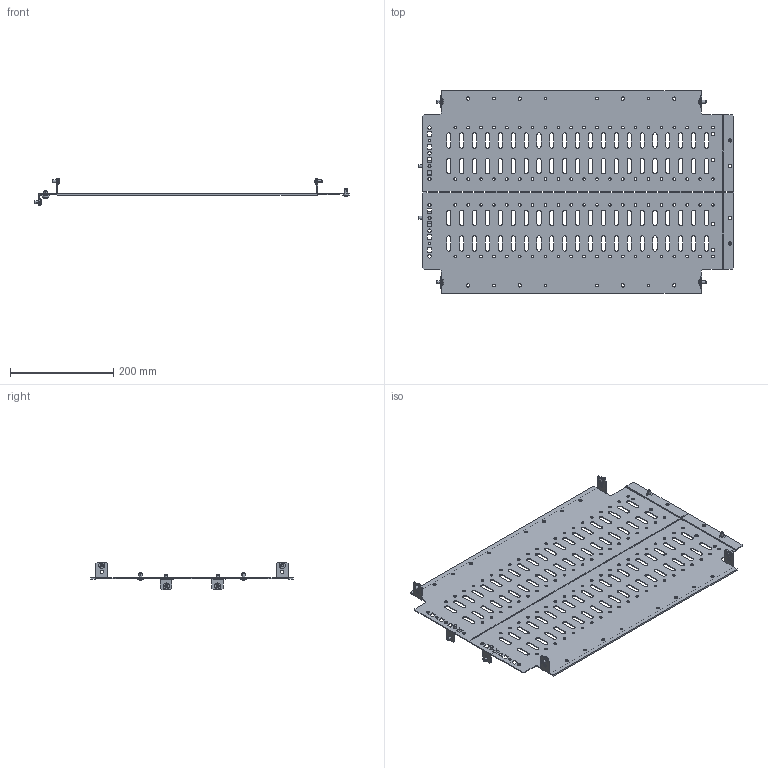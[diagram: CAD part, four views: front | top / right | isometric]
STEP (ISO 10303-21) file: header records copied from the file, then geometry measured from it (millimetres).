
FILE_DESCRIPTION (( 'STEP AP214' ), '1' );
FILE_NAME ('FO-00-SWH-040-060 Ïåðåãîðîäêà ñåêöèîíèðîâàíèÿ ãîðèçîíòàëüíàÿ 400õ600 ìì â øêàô ãëóáèíîé 1000 ìì.STEP', '2025-08-13T10:12:04', ( '' ), ( '' ), 'SwSTEP 2.0', 'SolidWorks 2023', '' );
FILE_SCHEMA (( 'AUTOMOTIVE_DESIGN' ));
Length unit declared in the file: millimetre
Products named in the file (6): Перегородка секционирования горизонтальная 400х600 мм в шкаф глубиной 1000 мм L; Перегородка секционирования горизонтальная 400х600 мм в шкаф глубиной 1000 мм R; FO-00-SWH-040-060 Перегородка секционирования горизонтальная 400х600 мм в шкаф глубиной 1000 мм; Уголок; Перегородка секционирования горизонтальная 400х600 мм в шкаф глубиной 1000 мм (R); Перегородка секционирования горизонтальная 400х600 мм в шкаф глубиной 1000 мм (L)
Assembly tree (6 placements, depth 3):
  FO-00-SWH-040-060 Перегородка секционирования горизонтальная 400х600 мм в шкаф глубиной 1000 мм
    Перегородка секционирования горизонтальная 400х600 мм в шкаф глубиной 1000 мм (L)
      Перегородка секционирования горизонтальная 400х600 мм в шкаф глубиной 1000 мм L
      Уголок
    Перегородка секционирования горизонтальная 400х600 мм в шкаф глубиной 1000 мм (R)
      Перегородка секционирования горизонтальная 400х600 мм в шкаф глубиной 1000 мм R
      Уголок
Bounding box: 611.5 x 393.6 x 54 mm (x, y, z)
Volume: 335706.6 mm3; surface area: 443970.8 mm2
Topology: 4 solids, 4 shells, 1302 faces, 3754 edges, 2484 vertices
Faces by surface type: plane 636, cylinder 610, cone 24, torus 16, sphere 16
Entity records: 41700 total; most frequent: CARTESIAN_POINT 7598, ORIENTED_EDGE 7094, DIRECTION 6983, EDGE_CURVE 3547, VERTEX_POINT 2350, VECTOR 2337, LINE 2337, AXIS2_PLACEMENT_3D 2323
